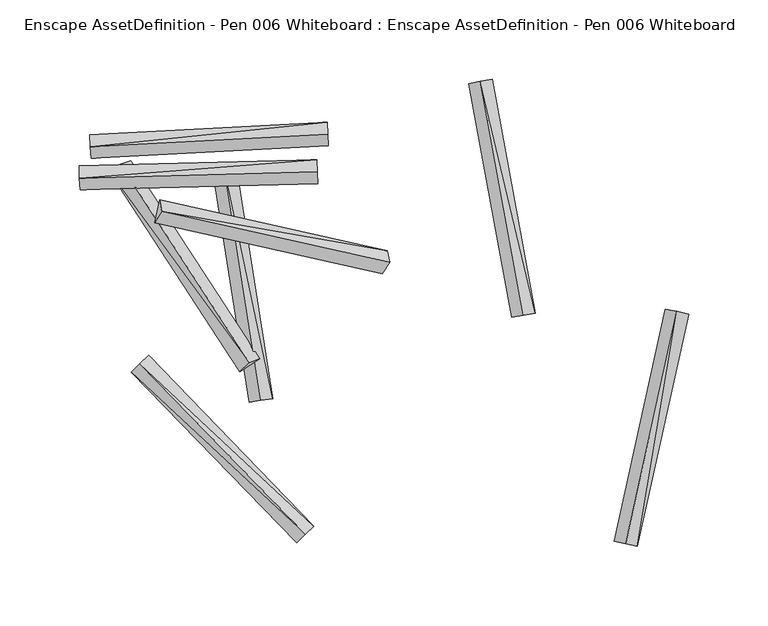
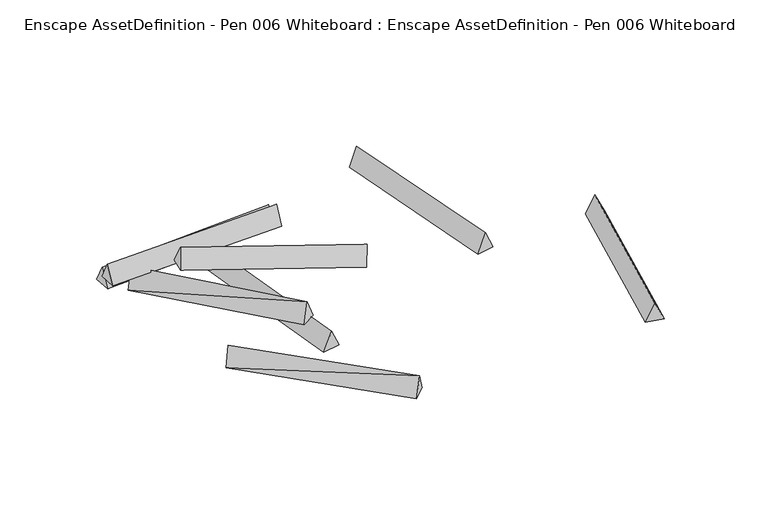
"""IFC4 building model written with IfcOpenShell, lengths in millimetres: geographic element geometry, Enscape AssetDefinition - Pen 006 Whiteboard : Enscape AssetDefinition - Pen 006 Whiteboard."""

from ifc_helpers import new_model, si_unit, origin, place, context, project, spatial, triangles, source, transform, mapped, element, save


def enscape_assetdefinition_pen_006_whiteboard_enscape_04741196(model_context):
    return source(origin(), model_context, "Body", "Tessellation", [
        triangles([(-177.531006, -62.9289986, 15.7939998), (-78.4780041, -175.8070015, 0.005), (-73.1529976, -170.6580062, 16.1850007), (-67.6980026, -165.3770059, 0.005), (-171.9260066, -57.8030034, 0.005), (-182.6570013, -68.2820013, 0.005), (64.3350038, -32.513, 16.1850007), (29.9069999, 113.3859933, 0.005), (71.801999, -31.1400006, 0.005), (57.0489978, -33.8490013, 0.005), (37.1409992, 115.0020011, 15.7939998), (44.6470023, 116.163004, 0.005), (128.7460023, -176.4799982, 16.1850007), (136.1590037, -178.1219946, 0.005), (161.1120046, -30.0130004, 15.7939998), (153.8189904, -28.6860011, 0.005), (168.4779975, -31.8650018, 0.005), (121.5140037, -174.875009, 0.005), (-208.0879889, 66.3499971, 0.005), (-58.5790007, 74.2269963, 0.005), (-59.3580002, 89.2070004, 0.005), (-58.9619988, 81.6240058, 16.1850007), (-208.9360113, 81.3260043, 0.005), (-208.7550086, 73.7320047, 15.7939998), (-215.517005, 53.9809983, 32.9249979), (-65.568, 57.9179991, 33.316001), (-65.7640046, 65.509001, 17.1319996), (-215.0450134, 46.583998, 17.1319996), (-215.4980018, 61.5770009, 17.1319996), (-65.3809974, 50.5139997, 17.1319996), (-189.7750079, 62.6610008, 16.6110001), (-195.6070102, 56.7699996, 0.005), (-108.4000058, -62.4749975, 31.4139982), (-114.3800006, -68.1700032, 15.6469998), (-101.7769999, -60.0650019, 14.9850001), (-183.0410076, 64.9330006, 0.005), (-108.3920031, -87.3669964, 0.005), (-101.0739995, -86.2250058, 16.1850007), (-93.5729948, -85.0490057, 0.005), (-131.6300014, 60.5340004, 0.005), (-124.3559996, 61.9580005, 15.7939998), (-116.8209944, 62.9210004, 0.005), (-24.5779988, -6.4649999, 0.005), (-163.6440084, 33.0629982, 43.0580004), (-21.4000019, 8.1809999, 0.005), (-19.8669991, 0.767, 15.0280003), (-168.006006, 25.77, 27.8210012), (-164.8940048, 40.4309987, 27.2059997)], [[48, 45, 43], [43, 47, 48], [47, 44, 48], [45, 48, 44], [43, 45, 46], [44, 46, 45], [47, 43, 46], [46, 44, 47], [42, 39, 37], [37, 40, 42], [40, 41, 42], [39, 42, 41], [37, 39, 38], [41, 38, 39], [40, 37, 38], [38, 41, 40], [36, 35, 34], [34, 32, 36], [32, 31, 36], [35, 36, 31], [34, 35, 33], [31, 33, 35], [32, 34, 33], [33, 31, 32], [29, 27, 30], [30, 28, 29], [28, 25, 29], [27, 29, 25], [30, 27, 26], [25, 26, 27], [28, 30, 26], [26, 25, 28], [23, 21, 20], [20, 19, 23], [19, 24, 23], [21, 23, 24], [20, 21, 22], [24, 22, 21], [19, 20, 22], [22, 24, 19], [17, 14, 18], [18, 16, 17], [16, 15, 17], [14, 17, 15], [18, 14, 13], [15, 13, 14], [16, 18, 13], [13, 15, 16], [12, 9, 10], [10, 8, 12], [8, 11, 12], [9, 12, 11], [10, 9, 7], [11, 7, 9], [8, 10, 7], [7, 11, 8], [5, 4, 2], [2, 6, 5], [6, 1, 5], [4, 5, 1], [2, 4, 3], [1, 3, 4], [6, 2, 3], [3, 1, 6]]),
    ])


if __name__ == "__main__":
    model = new_model("IFC4")
    model_context = context("Model", 3, world=origin())
    ifc_project = project(units=[si_unit("LENGTHUNIT", "METRE", prefix="MILLI")], contexts=[model_context])
    site = spatial("IfcSite", under=ifc_project)
    building = spatial("IfcBuilding", under=site)
    placement = place(None, origin())
    enscape_assetdefinition_pen_006_whiteboard_enscape_shape = enscape_assetdefinition_pen_006_whiteboard_enscape_04741196(model_context)
    element("IfcGeographicElement", 1, ObjectType="Enscape AssetDefinition - Pen 006 Whiteboard : Enscape AssetDefinition - Pen 006 Whiteboard", at=placement, inside=building, context=model_context, shape_type="MappedRepresentation", body=[
        mapped(enscape_assetdefinition_pen_006_whiteboard_enscape_shape, transform((0.0, 0.0, 0.0), x_axis=(1.0, 0.0, 0.0), y_axis=(0.0, 1.0, 0.0), z_axis=(0.0, 0.0, 1.0))),
    ])
    save(model, "model.ifc")
